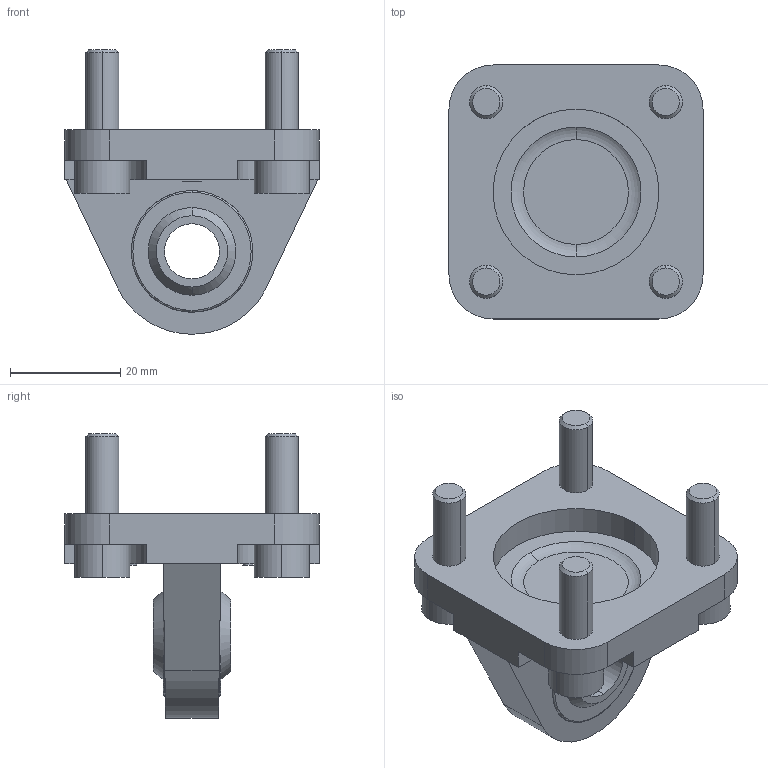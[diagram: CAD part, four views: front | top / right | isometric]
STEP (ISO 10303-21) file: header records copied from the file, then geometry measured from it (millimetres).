
FILE_DESCRIPTION((''),'2;1');
FILE_NAME('1827001619','2020-04-26T',('GIO1HC'),(''),'CREO PARAMETRIC BY PTC INC, 2016260','CREO PARAMETRIC BY PTC INC, 2016260','');
FILE_SCHEMA(('CONFIG_CONTROL_DESIGN'));
Length unit declared in the file: millimetre
Products named in the file (1): 1827001619
Bounding box: 46 x 46 x 51.5 mm (x, y, z)
Volume: 23811.1 mm3; surface area: 10635.1 mm2
Topology: 1 solids, 1 shells, 461 faces, 1260 edges, 836 vertices
Faces by surface type: plane 410, cylinder 33, cone 8, torus 6, sphere 4
Entity records: 14579 total; most frequent: CARTESIAN_POINT 2737, ORIENTED_EDGE 2520, DIRECTION 2274, EDGE_CURVE 1260, VECTOR 1156, LINE 1156, VERTEX_POINT 836, AXIS2_PLACEMENT_3D 559
